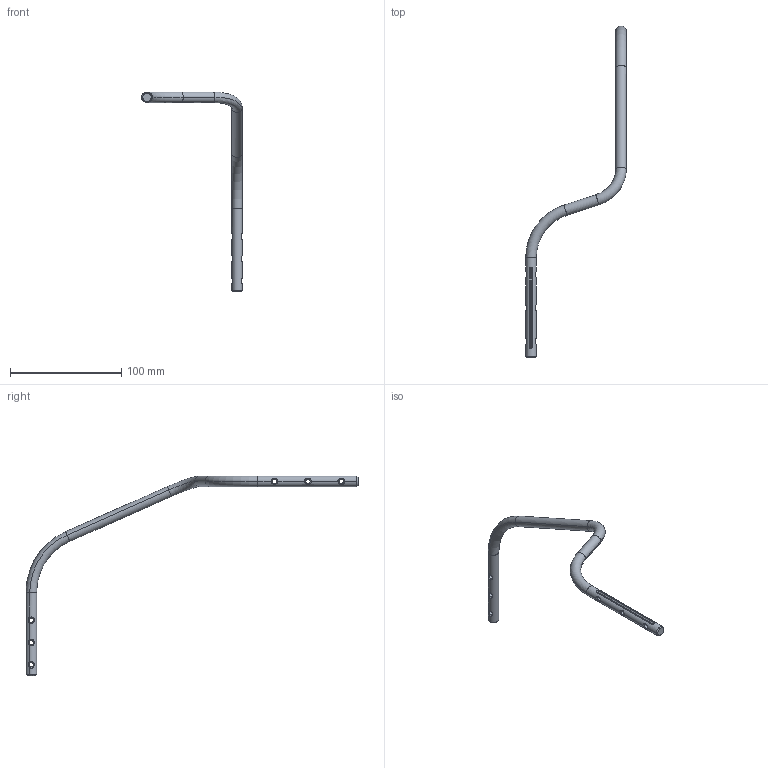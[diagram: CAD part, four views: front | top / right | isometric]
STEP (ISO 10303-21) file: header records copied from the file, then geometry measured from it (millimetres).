
FILE_DESCRIPTION(('CATIA V5 STEP Exchange','CAx-IF Rec.Pracs.--- Model Styling and Organization---1.4--- 2014-01-23','CAx-IF Rec.Pracs.---3D Tessellated Data Validation Properties---0.5---2014-09-14'),'2;1');
FILE_NAME('D:\GrabCAD\I+D\SERIE_LEXA\EKOT-1360-170921A-LEXA_WAIST_SUPPORT\FAB\FAB_C\PDF\MAQUINADO\1360.000.009.000.TUBO.stp','2024-11-01T00:00:55+00:00',('none'),('none'),'CATIA Version 5-6 Release 2018 SP6','CATIA V5 STEP AP242','none');
FILE_SCHEMA(('AP242_MANAGED_MODEL_BASED_3D_ENGINEERING_MIM_LF {1 0 10303 442 1 1 4}'));
Length unit declared in the file: millimetre
Products named in the file (1): 1360.000.009.000.TUBO
Bounding box: 90.48 x 298.39 x 179.68 mm (x, y, z)
Volume: 30854.1 mm3; surface area: 14447.7 mm2
Topology: 1 solids, 1 shells, 98 faces, 257 edges, 151 vertices
Faces by surface type: bspline 48, cylinder 28, torus 10, plane 8, cone 4
Entity records: 5888 total; most frequent: CARTESIAN_POINT 3938, ORIENTED_EDGE 514, EDGE_CURVE 257, DIRECTION 169, B_SPLINE_CURVE_WITH_KNOTS 162, VERTEX_POINT 151, EDGE_LOOP 100, ADVANCED_FACE 98
